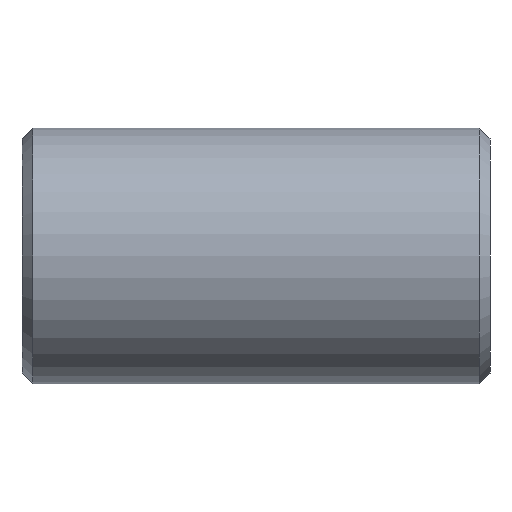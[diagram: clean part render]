
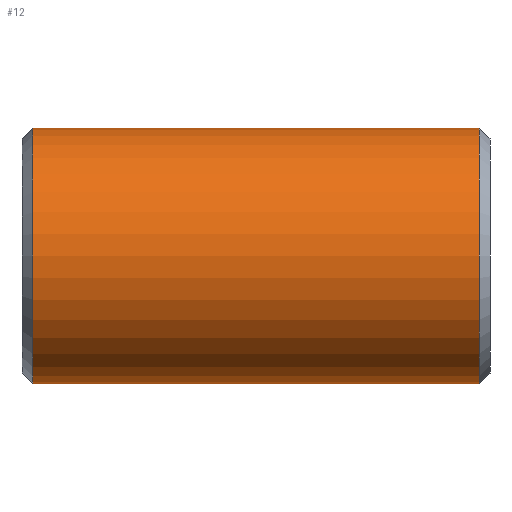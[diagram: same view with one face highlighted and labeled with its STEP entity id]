
A CAD part, left-side view. The second image highlights one B-rep face of the part: STEP entity #12.
In plain terms, the highlighted cylindrical face has radius 9.527 mm (diameter 19.055 mm), a partial arc.
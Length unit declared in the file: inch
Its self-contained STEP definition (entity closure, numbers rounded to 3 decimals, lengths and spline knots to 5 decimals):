
#2 = EDGE_CURVE ( 'NONE', #84, #14, #104, .T. ) ;
#6 = ORIENTED_EDGE ( 'NONE', *, *, #18, .F. ) ;
#11 = EDGE_LOOP ( 'NONE', ( #6, #25, #16, #32 ) ) ;
#12 = ADVANCED_FACE ( 'NONE', ( #138 ), #92, .T. ) ;
#14 = VERTEX_POINT ( 'NONE', #168 ) ;
#16 = ORIENTED_EDGE ( 'NONE', *, *, #28, .T. ) ;
#18 = EDGE_CURVE ( 'NONE', #45, #14, #166, .T. ) ;
#25 = ORIENTED_EDGE ( 'NONE', *, *, #29, .T. ) ;
#28 = EDGE_CURVE ( 'NONE', #109, #84, #136, .T. ) ;
#29 = EDGE_CURVE ( 'NONE', #45, #109, #132, .T. ) ;
#32 = ORIENTED_EDGE ( 'NONE', *, *, #2, .T. ) ;
#45 = VERTEX_POINT ( 'NONE', #114 ) ;
#76 = DIRECTION ( 'NONE',  ( 0., 0., -1. ) ) ;
#77 = DIRECTION ( 'NONE',  ( 0., -1., 0. ) ) ;
#78 = CARTESIAN_POINT ( 'NONE',  ( 0., 0.6875, 0. ) ) ;
#84 = VERTEX_POINT ( 'NONE', #262 ) ;
#92 = CYLINDRICAL_SURFACE ( 'NONE', #143, 0.3751 ) ;
#100 = DIRECTION ( 'NONE',  ( 0., 0., 1. ) ) ;
#101 = DIRECTION ( 'NONE',  ( 0., 1., 0. ) ) ;
#102 = CARTESIAN_POINT ( 'NONE',  ( 0., -0.65625, 0. ) ) ;
#103 = AXIS2_PLACEMENT_3D ( 'NONE', #102, #101, #100 ) ;
#104 = CIRCLE ( 'NONE', #103, 0.3751 ) ;
#109 = VERTEX_POINT ( 'NONE', #210 ) ;
#114 = CARTESIAN_POINT ( 'NONE',  ( 0., 0.65625, 0.3751 ) ) ;
#128 = DIRECTION ( 'NONE',  ( 0., 0., 1. ) ) ;
#129 = DIRECTION ( 'NONE',  ( 0., -1., 0. ) ) ;
#130 = CARTESIAN_POINT ( 'NONE',  ( 0., 0.65625, 0. ) ) ;
#131 = AXIS2_PLACEMENT_3D ( 'NONE', #130, #129, #128 ) ;
#132 = CIRCLE ( 'NONE', #131, 0.3751 ) ;
#133 = DIRECTION ( 'NONE',  ( 0., -1., 0. ) ) ;
#134 = VECTOR ( 'NONE', #133, 39.37008 ) ;
#135 = CARTESIAN_POINT ( 'NONE',  ( 0., 0.6875, -0.3751 ) ) ;
#136 = LINE ( 'NONE', #135, #134 ) ;
#138 = FACE_OUTER_BOUND ( 'NONE', #11, .T. ) ;
#143 = AXIS2_PLACEMENT_3D ( 'NONE', #78, #77, #76 ) ;
#163 = DIRECTION ( 'NONE',  ( 0., -1., 0. ) ) ;
#164 = VECTOR ( 'NONE', #163, 39.37008 ) ;
#165 = CARTESIAN_POINT ( 'NONE',  ( 0., 0.6875, 0.3751 ) ) ;
#166 = LINE ( 'NONE', #165, #164 ) ;
#168 = CARTESIAN_POINT ( 'NONE',  ( 0., -0.65625, 0.3751 ) ) ;
#210 = CARTESIAN_POINT ( 'NONE',  ( 0., 0.65625, -0.3751 ) ) ;
#262 = CARTESIAN_POINT ( 'NONE',  ( 0., -0.65625, -0.3751 ) ) ;
